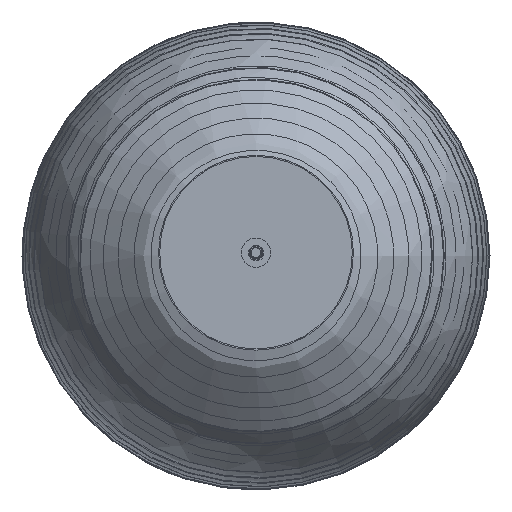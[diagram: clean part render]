
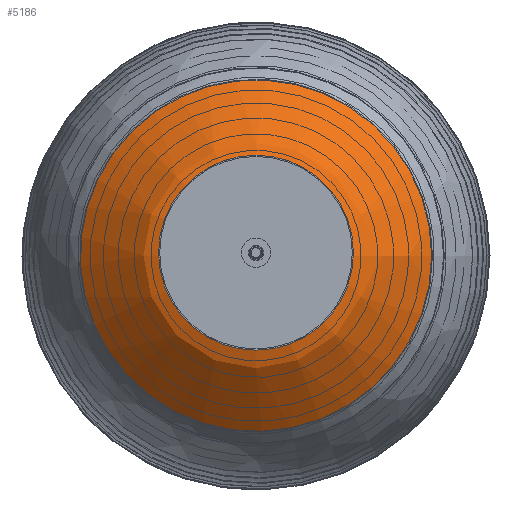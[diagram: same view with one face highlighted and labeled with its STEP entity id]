
A CAD part, top view. The second image highlights one B-rep face of the part: STEP entity #5186.
In plain terms, the highlighted free-form (B-spline) face has degree [2, 2] with [3, 9] control points.
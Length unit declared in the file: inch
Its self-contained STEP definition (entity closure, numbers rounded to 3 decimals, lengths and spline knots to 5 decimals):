
#294=(
BOUNDED_SURFACE()
B_SPLINE_SURFACE(2,2,((#9020,#9021,#9022,#9023,#9024,#9025,#9026,#9027,
#9028),(#9029,#9030,#9031,#9032,#9033,#9034,#9035,#9036,#9037),(#9038,#9039,
#9040,#9041,#9042,#9043,#9044,#9045,#9046)),.UNSPECIFIED.,.F.,.T.,.F.)
B_SPLINE_SURFACE_WITH_KNOTS((3,3),(3,2,2,2,3),(-1.4171,-0.70241),
(-3.14159,-1.5708,0.,1.5708,3.14159),
 .UNSPECIFIED.)
GEOMETRIC_REPRESENTATION_ITEM()
RATIONAL_B_SPLINE_SURFACE(((1.,0.707,1.,0.707,1.,
0.707,1.,0.707,1.),(0.937,0.662,
0.937,0.662,0.937,0.662,
0.937,0.662,0.937),(1.,0.707,
1.,0.707,1.,0.707,1.,0.707,1.)))
REPRESENTATION_ITEM('')
SURFACE()
);
#986=FACE_OUTER_BOUND('',#1306,.T.);
#1306=EDGE_LOOP('',(#3710,#3711,#3712,#3713,#3714,#3715));
#1697=CIRCLE('',#5591,4.50601);
#1698=CIRCLE('',#5592,4.50601);
#1699=CIRCLE('',#5593,5.9);
#1700=CIRCLE('',#5594,0.90587);
#1701=CIRCLE('',#5595,0.90587);
#2219=VERTEX_POINT('',#9015);
#2220=VERTEX_POINT('',#9016);
#2221=VERTEX_POINT('',#9047);
#2222=VERTEX_POINT('',#9049);
#2783=EDGE_CURVE('',#2219,#2220,#1697,.T.);
#2784=EDGE_CURVE('',#2220,#2219,#1698,.T.);
#2786=EDGE_CURVE('',#2219,#2221,#1699,.T.);
#2787=EDGE_CURVE('',#2221,#2222,#1700,.T.);
#2788=EDGE_CURVE('',#2222,#2221,#1701,.T.);
#3710=ORIENTED_EDGE('',*,*,#2783,.T.);
#3711=ORIENTED_EDGE('',*,*,#2784,.T.);
#3712=ORIENTED_EDGE('',*,*,#2786,.T.);
#3713=ORIENTED_EDGE('',*,*,#2787,.T.);
#3714=ORIENTED_EDGE('',*,*,#2788,.T.);
#3715=ORIENTED_EDGE('',*,*,#2786,.F.);
#5186=ADVANCED_FACE('',(#986),#294,.T.);
#5591=AXIS2_PLACEMENT_3D('',#9017,#6229,#6230);
#5592=AXIS2_PLACEMENT_3D('',#9018,#6231,#6232);
#5593=AXIS2_PLACEMENT_3D('',#9048,#6234,#6235);
#5594=AXIS2_PLACEMENT_3D('',#9050,#6236,#6237);
#5595=AXIS2_PLACEMENT_3D('',#9051,#6238,#6239);
#6229=DIRECTION('center_axis',(0.,0.,
1.));
#6230=DIRECTION('ref_axis',(-1.,0.,0.));
#6231=DIRECTION('center_axis',(0.,0.,
1.));
#6232=DIRECTION('ref_axis',(-1.,0.,0.));
#6234=DIRECTION('center_axis',(0.,-1.,0.));
#6235=DIRECTION('ref_axis',(1.,0.,0.));
#6236=DIRECTION('center_axis',(0.,0.,
-1.));
#6237=DIRECTION('ref_axis',(-1.,0.,0.));
#6238=DIRECTION('center_axis',(0.,0.,
-1.));
#6239=DIRECTION('ref_axis',(-1.,0.,0.));
#9015=CARTESIAN_POINT('',(4.50601,0.00671,-0.24855));
#9016=CARTESIAN_POINT('',(-3.66711,2.62519,-0.24855));
#9017=CARTESIAN_POINT('Origin',(0.,0.00671,
-0.24855));
#9018=CARTESIAN_POINT('Origin',(0.,0.00671,
-0.24855));
#9020=CARTESIAN_POINT('Ctrl Pts',(0.90587,0.00671,
1.77014));
#9021=CARTESIAN_POINT('Ctrl Pts',(0.90587,0.91259,1.77014));
#9022=CARTESIAN_POINT('Ctrl Pts',(0.,0.91259,
1.77014));
#9023=CARTESIAN_POINT('Ctrl Pts',(-0.90587,0.91259,
1.77014));
#9024=CARTESIAN_POINT('Ctrl Pts',(-0.90587,0.00671,
1.77014));
#9025=CARTESIAN_POINT('Ctrl Pts',(-0.90587,-0.89916,
1.77014));
#9026=CARTESIAN_POINT('Ctrl Pts',(0.,-0.89916,
1.77014));
#9027=CARTESIAN_POINT('Ctrl Pts',(0.90587,-0.89916,
1.77014));
#9028=CARTESIAN_POINT('Ctrl Pts',(0.90587,0.00671,
1.77014));
#9029=CARTESIAN_POINT('Ctrl Pts',(3.08281,0.00671,
1.4329));
#9030=CARTESIAN_POINT('Ctrl Pts',(3.08281,3.08952,1.4329));
#9031=CARTESIAN_POINT('Ctrl Pts',(0.,3.08952,
1.4329));
#9032=CARTESIAN_POINT('Ctrl Pts',(-3.08281,3.08952,1.4329));
#9033=CARTESIAN_POINT('Ctrl Pts',(-3.08281,0.00671,
1.4329));
#9034=CARTESIAN_POINT('Ctrl Pts',(-3.08281,-3.07609,1.4329));
#9035=CARTESIAN_POINT('Ctrl Pts',(0.,-3.07609,
1.4329));
#9036=CARTESIAN_POINT('Ctrl Pts',(3.08281,-3.07609,1.4329));
#9037=CARTESIAN_POINT('Ctrl Pts',(3.08281,0.00671,
1.4329));
#9038=CARTESIAN_POINT('Ctrl Pts',(4.50601,0.00671,
-0.24855));
#9039=CARTESIAN_POINT('Ctrl Pts',(4.50601,4.51272,-0.24855));
#9040=CARTESIAN_POINT('Ctrl Pts',(0.,4.51272,
-0.24855));
#9041=CARTESIAN_POINT('Ctrl Pts',(-4.50601,4.51272,-0.24855));
#9042=CARTESIAN_POINT('Ctrl Pts',(-4.50601,0.00671,
-0.24855));
#9043=CARTESIAN_POINT('Ctrl Pts',(-4.50601,-4.4993,-0.24855));
#9044=CARTESIAN_POINT('Ctrl Pts',(0.,-4.4993,
-0.24855));
#9045=CARTESIAN_POINT('Ctrl Pts',(4.50601,-4.4993,-0.24855));
#9046=CARTESIAN_POINT('Ctrl Pts',(4.50601,0.00671,
-0.24855));
#9047=CARTESIAN_POINT('',(0.90587,0.00671,1.77014));
#9048=CARTESIAN_POINT('Origin',(0.00263,0.00671,
-4.06031));
#9049=CARTESIAN_POINT('',(-0.73722,0.53312,1.77014));
#9050=CARTESIAN_POINT('Origin',(0.,0.00671,
1.77014));
#9051=CARTESIAN_POINT('Origin',(0.,0.00671,
1.77014));
